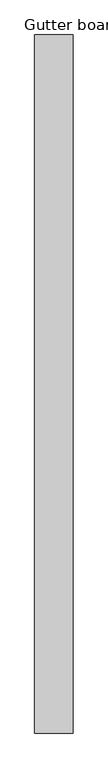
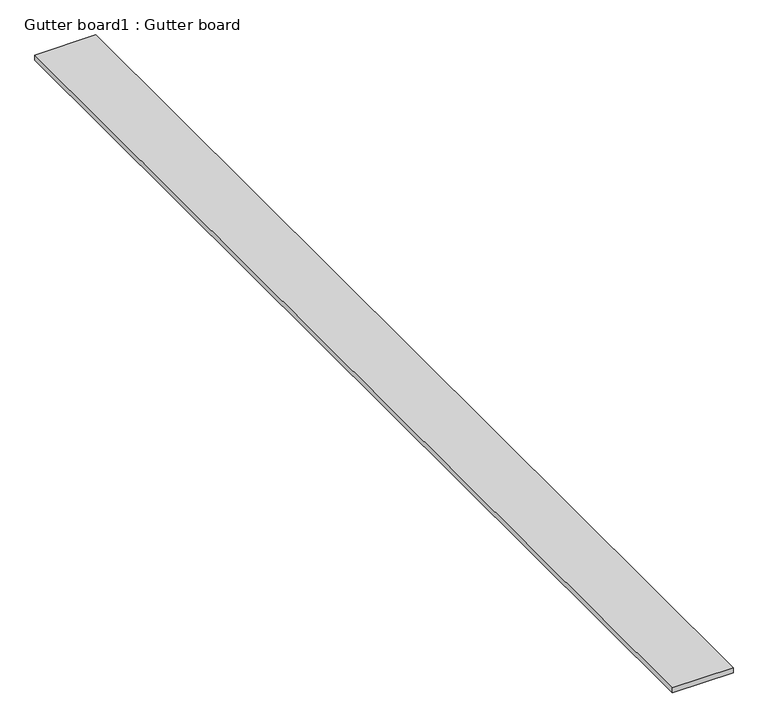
"""IFC4 building model written with IfcOpenShell, lengths in millimetres: proxy geometry, Gutter board1 : Gutter board."""

from ifc_helpers import new_model, si_unit, frame, origin, place, context, project, spatial, polyline, outline, extrude, source, transform, mapped, element, save


def gutter_board1_gutter_board_67940167(model_context):
    return source(origin(), model_context, "Body", "SweptSolid", [
        extrude(outline(polyline([(-27372.5216852, -23329.5415677), (-27542.5216852, -23329.5415677), (-27542.5216852, -20239.5415677), (-27372.5216852, -20239.5415677), (-27372.5216852, -23329.5415677)])), frame((0.0, 0.0, 3784.2452806), z_axis=(0.0, 0.0, 1.0), x_axis=(1.0, 0.0, 0.0)), (0.0, 0.0, 1.0), 15.0),
    ])


if __name__ == "__main__":
    model = new_model("IFC4")
    model_context = context("Model", 3, world=origin())
    ifc_project = project(units=[si_unit("LENGTHUNIT", "METRE", prefix="MILLI")], contexts=[model_context])
    site = spatial("IfcSite", under=ifc_project)
    building = spatial("IfcBuilding", under=site)
    placement = place(None, origin())
    gutter_board1_gutter_board_shape = gutter_board1_gutter_board_67940167(model_context)
    element("IfcBuildingElementProxy", 1, Name="Gutter board1 : Gutter board", ObjectType="Gutter board1 : Gutter board", at=placement, inside=building, context=model_context, shape_type="MappedRepresentation", body=[
        mapped(gutter_board1_gutter_board_shape, transform((0.0, 0.0, 0.0), x_axis=(1.0, 0.0, 0.0), y_axis=(0.0, 1.0, 0.0), z_axis=(0.0, 0.0, 1.0))),
    ])
    save(model, "model.ifc")
